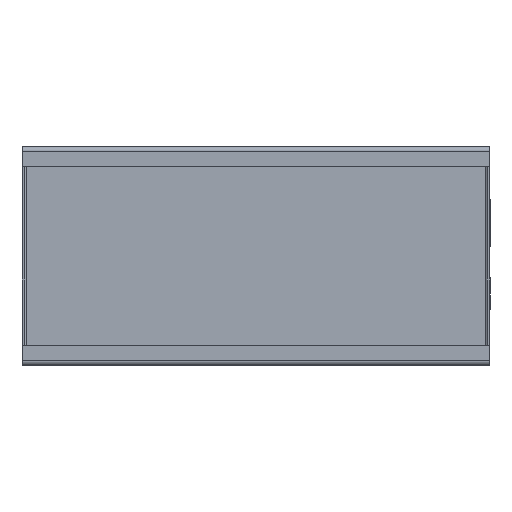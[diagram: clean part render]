
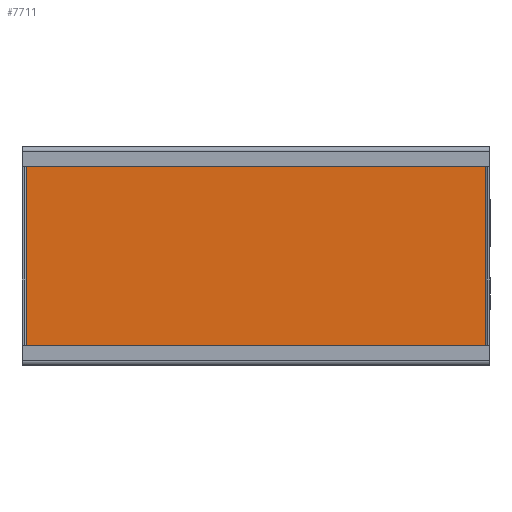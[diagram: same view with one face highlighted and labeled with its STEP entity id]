
A CAD part, top view. The second image highlights one B-rep face of the part: STEP entity #7711.
In plain terms, the highlighted planar face has unit normal (0, 0, 1).
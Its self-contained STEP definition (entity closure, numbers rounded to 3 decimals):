
#4931=CARTESIAN_POINT(' ',(104.975,47.975,1.35));
#4936=DIRECTION(' ',(0.,-1.,0.));
#4941=VECTOR(' ',#4936,1.);
#4946=LINE('',#4931,#4941);
#4951=CARTESIAN_POINT(' ',(104.975,47.975,1.35));
#4952=VERTEX_POINT(' ',#4951);
#4956=CARTESIAN_POINT(' ',(104.975,-47.975,1.35));
#4957=VERTEX_POINT(' ',#4956);
#4961=EDGE_CURVE(' ',#4952,#4957,#4946,.T.);
#7571=DIRECTION(' ',(-0.,0.,1.));
#7576=CARTESIAN_POINT(' ',(-104.975,-47.975,1.35));
#7581=DIRECTION(' ',(1.,0.,0.));
#7586=AXIS2_PLACEMENT_3D(' ',#7576,#7571,#7581);
#7591=PLANE('NONE',#7586);
#7596=CARTESIAN_POINT(' ',(104.975,-47.975,1.35));
#7601=DIRECTION(' ',(-1.,0.,0.));
#7606=VECTOR(' ',#7601,1.);
#7611=LINE('',#7596,#7606);
#7616=CARTESIAN_POINT(' ',(-104.975,-47.975,1.35));
#7617=VERTEX_POINT(' ',#7616);
#7621=EDGE_CURVE(' ',#4957,#7617,#7611,.T.);
#7626=ORIENTED_EDGE(' ',*,*,#7621,.F.);
#7631=ORIENTED_EDGE(' ',*,*,#4961,.F.);
#7636=CARTESIAN_POINT(' ',(-104.975,47.975,1.35));
#7641=DIRECTION(' ',(1.,0.,0.));
#7646=VECTOR(' ',#7641,1.);
#7651=LINE('',#7636,#7646);
#7656=CARTESIAN_POINT(' ',(-104.975,47.975,1.35));
#7657=VERTEX_POINT(' ',#7656);
#7661=EDGE_CURVE(' ',#7657,#4952,#7651,.T.);
#7666=ORIENTED_EDGE(' ',*,*,#7661,.F.);
#7671=CARTESIAN_POINT(' ',(-104.975,-47.975,1.35));
#7676=DIRECTION(' ',(0.,1.,0.));
#7681=VECTOR(' ',#7676,1.);
#7686=LINE('',#7671,#7681);
#7691=EDGE_CURVE(' ',#7617,#7657,#7686,.T.);
#7696=ORIENTED_EDGE(' ',*,*,#7691,.F.);
#7701=EDGE_LOOP(' ',(#7626,#7631,#7666,#7696));
#7706=FACE_OUTER_BOUND(' ',#7701,.T.);
#7711=ADVANCED_FACE('NONE',(#7706),#7591,.T.);
